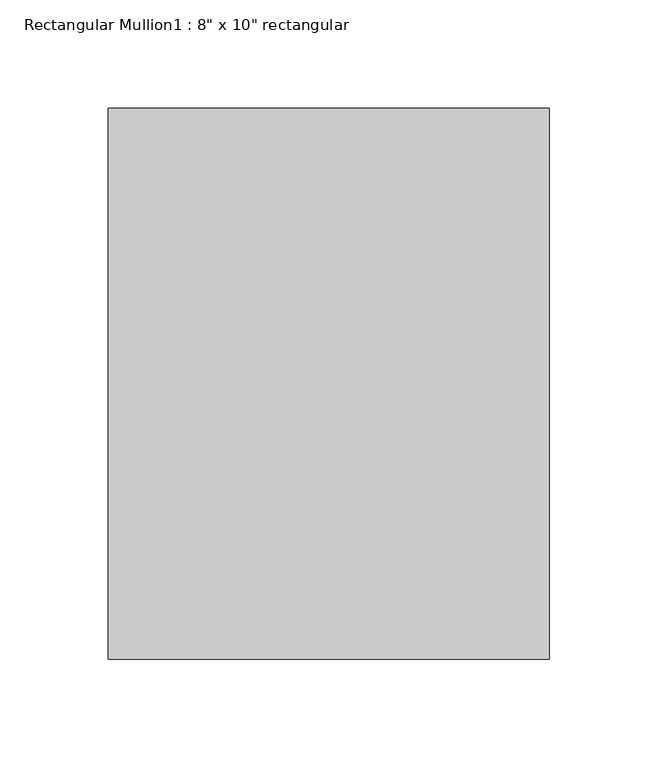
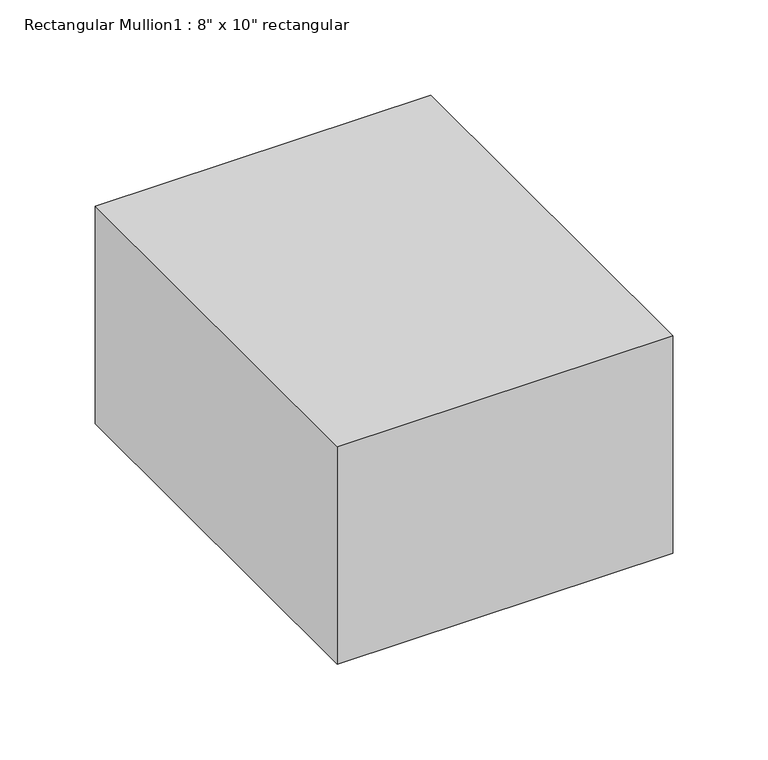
"""IFC4 building model written with IfcOpenShell, lengths in millimetres: member geometry."""

from ifc_helpers import new_model, si_unit, frame, origin, place, context, project, spatial, polyline, outline, extrude, source, transform, mapped, element, save


def member_93925f5f(model_context):
    return source(origin(), model_context, "Body", "SweptSolid", [
        extrude(outline(polyline([(0.0, 127.0), (0.0, -127.0), (-203.2, -127.0), (-203.2, 127.0), (0.0, 127.0)])), frame((0.0, 0.0, -139.2998379), z_axis=(0.0, 0.0, 1.0), x_axis=(1.0, 0.0, 0.0)), (0.0, 0.0, 1.0), 139.2998379),
    ])


if __name__ == "__main__":
    model = new_model("IFC4")
    model_context = context("Model", 3, world=origin())
    ifc_project = project(units=[si_unit("LENGTHUNIT", "METRE", prefix="MILLI")], contexts=[model_context])
    site = spatial("IfcSite", under=ifc_project)
    building = spatial("IfcBuilding", under=site)
    placement = place(None, origin())
    member_shape = member_93925f5f(model_context)
    element("IfcMember", 1, ObjectType="Rectangular Mullion1 : 8\" x 10\" rectangular", at=placement, inside=building, context=model_context, shape_type="MappedRepresentation", body=[
        mapped(member_shape, transform((0.0, 0.0, 0.0), x_axis=(1.0, 0.0, 0.0), y_axis=(0.0, 1.0, 0.0), z_axis=(0.0, 0.0, 1.0))),
    ])
    save(model, "model.ifc")
